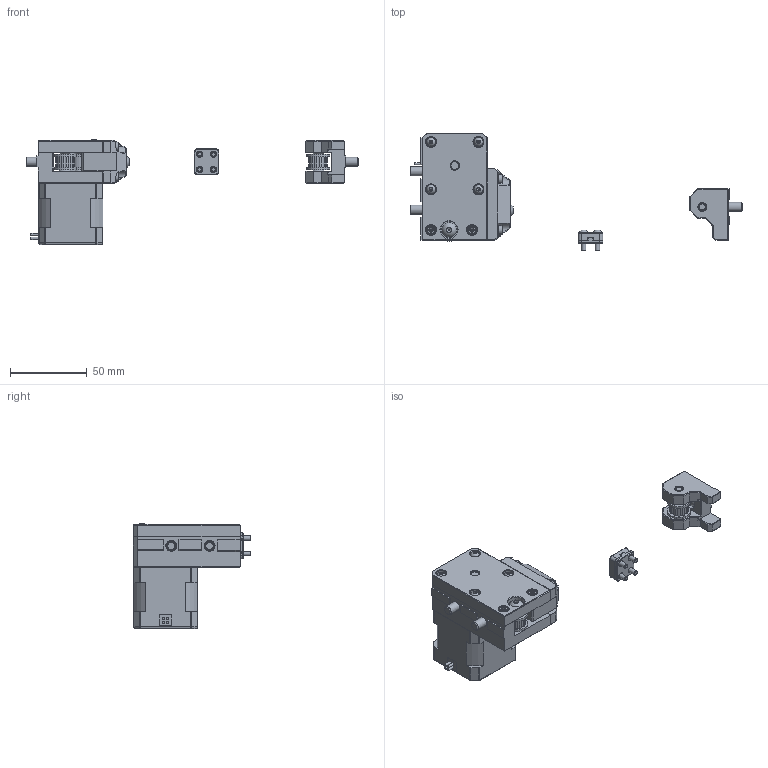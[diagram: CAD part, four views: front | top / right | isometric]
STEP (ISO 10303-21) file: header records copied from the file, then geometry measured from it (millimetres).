
FILE_DESCRIPTION(('FreeCAD Model'),'2;1');
FILE_NAME('Open CASCADE Shape Model','2023-01-03T15:13:26',('Author'),( ''),'Open CASCADE STEP processor 7.4','FreeCAD','Unknown');
FILE_SCHEMA(('AUTOMOTIVE_DESIGN { 1 0 10303 214 1 1 1 1 }'));
Length unit declared in the file: millimetre
Products named in the file (44): 4PR-assembly; C-motor-mount; motor; 20t-pulley-6mm; MR115ZZ; smooth-idler-6mm; tooth-idler-6mm; c-motor-mount-inner-plate; c-idler-housing; c-tesioner-cap-nut; M3-HeatSet; M3-HeatSet001; M3-HeatSet002; M3-HeatSet003; M3-HeatSet004; M3-HeatSet005; M3x25-Screw; M3x25-Screw001; M3x30-Screw; M3x30-Screw007; M3x30-Screw008; M3x30-Screw009; M6x14-Screw001; M6x14-Screw002; M5x25-Screw001; M3x10-Screw; M4x20-Screw; M4-HeatSet; M5x20-ThreadedRod; M4-Nut; c-motor-mount-outer-plate; 1mm-spacer; C-belt-mounter; c-belt-mounter-top; c-belt-mounter-bottom; M3x12-Screw003; M3x12-Screw001; M3x12-Screw; M3x12-Screw002; C-idler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
Assembly tree (46 placements, depth 3):
  4PR-assembly
    C-motor-mount
      motor
      20t-pulley-6mm
      MR115ZZ
      smooth-idler-6mm
      tooth-idler-6mm
      c-motor-mount-inner-plate
      c-idler-housing
      c-tesioner-cap-nut
      M3-HeatSet
      M3-HeatSet001
      M3-HeatSet002
      M3-HeatSet003
      M3-HeatSet004
      M3-HeatSet005
      M3x25-Screw
      M3x25-Screw001
      M3x30-Screw
      M3x30-Screw007
      M3x30-Screw008
      M3x30-Screw009
      M6x14-Screw001
      M6x14-Screw002
      M5x25-Screw001
      M3x10-Screw  x4
      M4x20-Screw
      M4-HeatSet
      M5x20-ThreadedRod
      M4-Nut
      c-motor-mount-outer-plate
      1mm-spacer
    C-belt-mounter
      c-belt-mounter-top
      c-belt-mounter-bottom
      M3x12-Screw003
      M3x12-Screw001
      M3x12-Screw
      M3x12-Screw002
    C-idler
      c-idler-mount
      tooth-idler-6mm001
      M5x25-Screw
      M6x14-Screw
Bounding box: 217 x 77 x 68.66 mm (x, y, z)
Volume: 156593.3 mm3; surface area: 59541 mm2
Topology: 43 solids, 43 shells, 1191 faces, 2706 edges, 1674 vertices
Faces by surface type: plane 671, cylinder 278, cone 162, sphere 42, revolution 26, bspline 12
Full cylindrical faces by diameter (mm): 1.5 x4, 3 x30, 3.242 x1, 3.3 x30, 3.775 x12, 3.8 x4, 3.86 x6, 4 x4, 4.2 x1, 4.3 x1, 4.55 x12, 4.9 x2, 5 x15, 5.05 x1, 5.085 x2, 5.3 x2, 5.5 x6, 5.51 x1, 6 x3, 6.17 x2, 6.3 x3, 6.4 x6, 7.3 x1, 8 x7, 11 x3, 11.1 x1, 11.5 x1, 12 x1, 12.22 x1, 15 x8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
Entity records: 70297 total; most frequent: CARTESIAN_POINT 16400, DIRECTION 10202, LINE 5422, VECTOR 5422, ORIENTED_EDGE 5134, PCURVE 5134, DEFINITIONAL_REPRESENTATION 5134, EDGE_CURVE 2567
